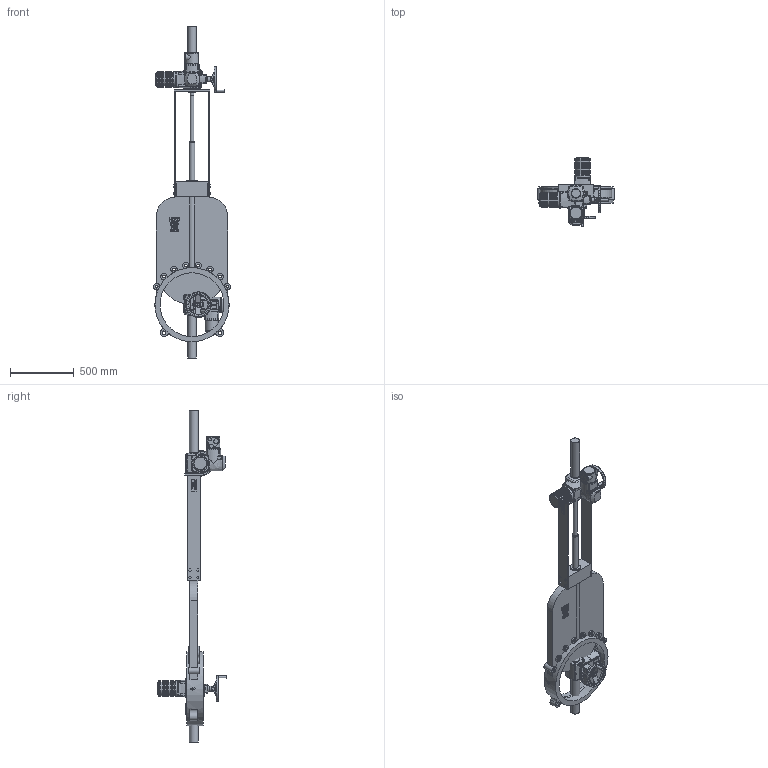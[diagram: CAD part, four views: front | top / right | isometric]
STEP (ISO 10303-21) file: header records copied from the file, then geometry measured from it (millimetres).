
FILE_DESCRIPTION( ( 'Unknown' ), '1' );
FILE_NAME( 'J:/Muud/ROOTSI BPS 3D vidinad/Nugasiibrid/Knife gate valve with electric actuator BPS/STEP formaat/BPS 2010500E knife gate valve DN500.stp', 'Unknown', ( 'Unknown' ), ( 'Unknown' ), 'PSStep 10.1', 'Unknown', ' ' );
FILE_SCHEMA( ( 'AUTOMOTIVE_DESIGN { 1 0 10303 214 1 1 1 1 }' ) );
Length unit declared in the file: millimetre
Products named in the file (3): Assem1; Knife gate valve for electric drive DN500 BPS; AUMA electric actuator sa10.1-oa0
Bounding box: 602.39 x 535.9 x 2597 mm (x, y, z)
Volume: 93490618 mm3; surface area: 5587723.5 mm2
Topology: 4 solids, 4 shells, 2704 faces, 6622 edges, 4184 vertices
Faces by surface type: extrusion 956, plane 678, cylinder 472, bspline 366, torus 110, cone 76, sphere 46
Full cylindrical faces by diameter (mm): 4.917 x8, 8.376 x8, 20 x4, 20.752 x16, 24 x2, 25 x2, 27 x4, 30 x10, 38 x2, 40 x2, 45 x2, 45.5 x2, 48 x4, 68 x2, 70 x2, 80 x2, 111.5 x22, 120.5 x20, 121 x2, 125 x2, 200 x2, 500 x4, 580 x2
Entity records: 81555 total; most frequent: CARTESIAN_POINT 42082, ORIENTED_EDGE 6250, DIRECTION 4556, EDGE_CURVE 3125, VERTEX_POINT 2053, VECTOR 1792, EDGE_LOOP 1650, B_SPLINE_CURVE_WITH_KNOTS 1595
